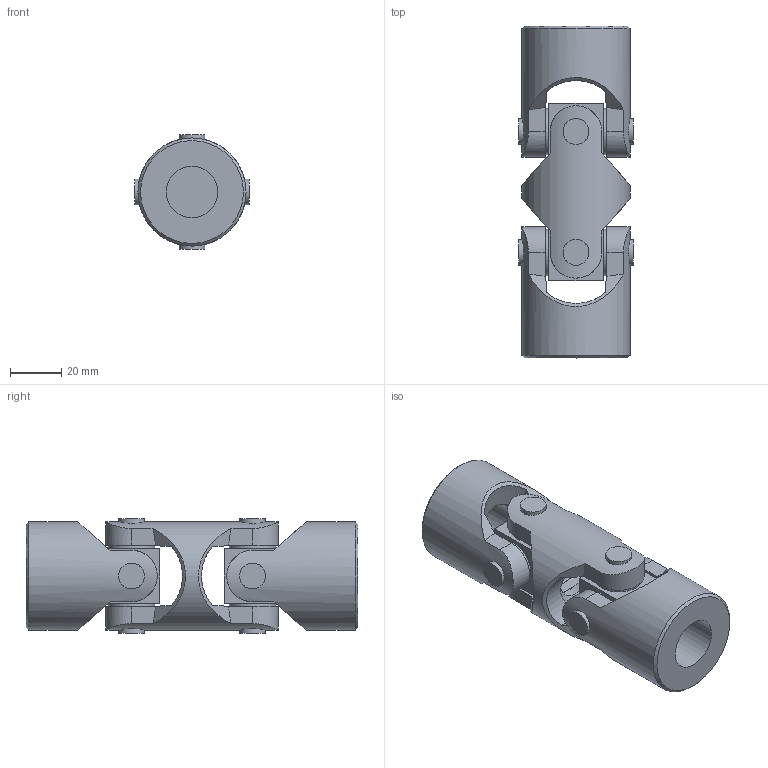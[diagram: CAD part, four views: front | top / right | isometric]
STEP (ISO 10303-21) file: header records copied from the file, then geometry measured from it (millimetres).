
FILE_DESCRIPTION(/* description */ (''),/* implementation_level */ '2;1');
FILE_NAME(/* name */ '\\SRV2016\Societa\Stefano\Disegni 3D\0Catalogo 3D\14Doppi XD\Ø42_3XD_SX0D2000.stp',/* time_stamp */ '2023-05-15T09:09:50+02:00',/* author */ ('acquisti'),/* organization */ (''),/* preprocessor_version */ 'ST-DEVELOPER v15.6',/* originating_system */ 'Autodesk Inventor 2015',/* authorisation */ '');
FILE_SCHEMA (('AUTOMOTIVE_DESIGN { 1 0 10303 214 3 1 1 }'));
Length unit declared in the file: millimetre
Products named in the file (4): 3X MOD; 3X SFE; 3X MOS; Ø42_3XD_SX0D2000
Assembly tree (5 placements, depth 2):
  Ø42_3XD_SX0D2000
    3X MOD
    3X SFE  x2
    3X MOS  x2
Bounding box: 44.4 x 129 x 44.4 mm (x, y, z)
Volume: 118845.7 mm3; surface area: 34787.1 mm2
Topology: 5 solids, 5 shells, 121 faces, 309 edges, 210 vertices
Faces by surface type: plane 62, cylinder 33, cone 22, torus 4
Full cylindrical faces by diameter (mm): 10 x8, 18 x8, 20 x2, 22 x4, 42 x3
Entity records: 2969 total; most frequent: CARTESIAN_POINT 1106, ORIENTED_EDGE 362, DIRECTION 346, EDGE_CURVE 181, AXIS2_PLACEMENT_3D 149, VERTEX_POINT 135, EDGE_LOOP 116, FACE_OUTER_BOUND 82
